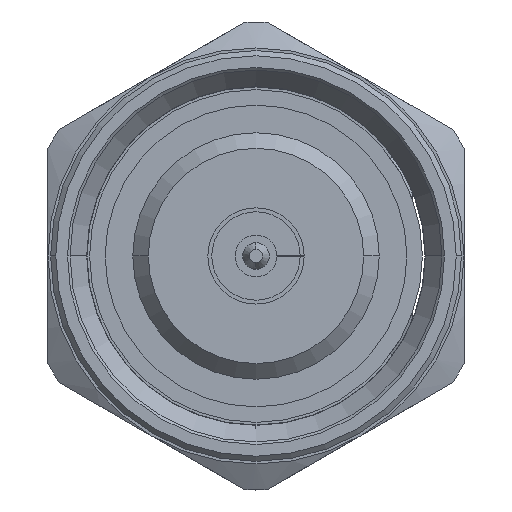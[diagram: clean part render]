
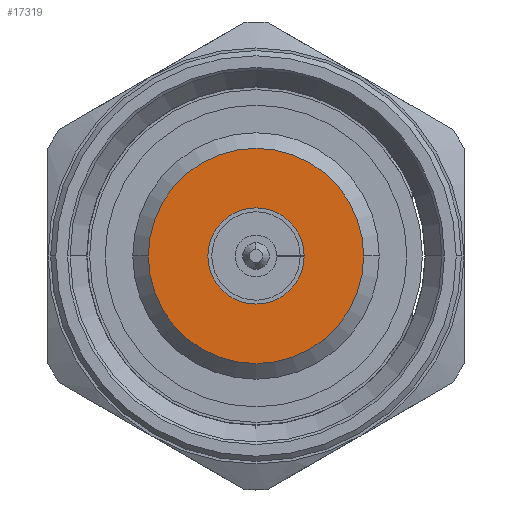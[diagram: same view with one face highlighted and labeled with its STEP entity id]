
A CAD part, left-side view. The second image highlights one B-rep face of the part: STEP entity #17319.
In plain terms, the highlighted planar face has unit normal (-1, 0, 0) as drawn and (0, 0, 1) by its records, which use the part's own axes.
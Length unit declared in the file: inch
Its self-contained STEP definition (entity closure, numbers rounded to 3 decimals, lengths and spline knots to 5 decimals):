
#649 = CARTESIAN_POINT ( 'NONE',  ( 0.0815, 0., 0.51693 ) ) ;
#1506 = EDGE_CURVE ( 'NONE', #31393, #21904, #18615, .T. ) ;
#2075 = EDGE_CURVE ( 'NONE', #21904, #31393, #32509, .T. ) ;
#2870 = DIRECTION ( 'NONE',  ( 0., 0., -1. ) ) ;
#3365 = DIRECTION ( 'NONE',  ( 0., 0., -1. ) ) ;
#3383 = VERTEX_POINT ( 'NONE', #11008 ) ;
#4039 = DIRECTION ( 'NONE',  ( 0., 0., -1. ) ) ;
#4273 = ORIENTED_EDGE ( 'NONE', *, *, #22717, .F. ) ;
#7033 = CARTESIAN_POINT ( 'NONE',  ( 0.03642, 0., 0.51693 ) ) ;
#8342 = FACE_BOUND ( 'NONE', #12535, .T. ) ;
#9455 = AXIS2_PLACEMENT_3D ( 'NONE', #29404, #13825, #32000 ) ;
#9874 = ORIENTED_EDGE ( 'NONE', *, *, #2075, .T. ) ;
#11008 = CARTESIAN_POINT ( 'NONE',  ( -0.0815, 0., 0.51693 ) ) ;
#11326 = CIRCLE ( 'NONE', #9455, 0.0815 ) ;
#11672 = ORIENTED_EDGE ( 'NONE', *, *, #1506, .T. ) ;
#12535 = EDGE_LOOP ( 'NONE', ( #11672, #9874 ) ) ;
#13521 = EDGE_CURVE ( 'NONE', #25742, #3383, #11326, .T. ) ;
#13825 = DIRECTION ( 'NONE',  ( 0., 0., -1. ) ) ;
#14627 = PLANE ( 'NONE',  #33476 ) ;
#15863 = EDGE_LOOP ( 'NONE', ( #4273, #21868 ) ) ;
#16306 = AXIS2_PLACEMENT_3D ( 'NONE', #18919, #3365, #21543 ) ;
#17229 = DIRECTION ( 'NONE',  ( 1., 0., 0. ) ) ;
#17319 = ADVANCED_FACE ( 'NONE', ( #8342, #22093 ), #14627, .T. ) ;
#17725 = CIRCLE ( 'NONE', #18954, 0.0815 ) ;
#18441 = CARTESIAN_POINT ( 'NONE',  ( 0., 0., 0.51693 ) ) ;
#18521 = CARTESIAN_POINT ( 'NONE',  ( -0.03642, 0., 0.51693 ) ) ;
#18615 = CIRCLE ( 'NONE', #16306, 0.03642 ) ;
#18919 = CARTESIAN_POINT ( 'NONE',  ( 0., 0., 0.51693 ) ) ;
#18954 = AXIS2_PLACEMENT_3D ( 'NONE', #19598, #4039, #22199 ) ;
#19598 = CARTESIAN_POINT ( 'NONE',  ( 0., 0., 0.51693 ) ) ;
#19600 = CARTESIAN_POINT ( 'NONE',  ( 0., -0.03642, 0.51693 ) ) ;
#21058 = DIRECTION ( 'NONE',  ( 1., 0., 0. ) ) ;
#21543 = DIRECTION ( 'NONE',  ( 1., 0., 0. ) ) ;
#21868 = ORIENTED_EDGE ( 'NONE', *, *, #13521, .F. ) ;
#21904 = VERTEX_POINT ( 'NONE', #18521 ) ;
#22093 = FACE_OUTER_BOUND ( 'NONE', #15863, .T. ) ;
#22199 = DIRECTION ( 'NONE',  ( -1., 0., 0. ) ) ;
#22717 = EDGE_CURVE ( 'NONE', #3383, #25742, #17725, .T. ) ;
#25439 = AXIS2_PLACEMENT_3D ( 'NONE', #18441, #2870, #21058 ) ;
#25742 = VERTEX_POINT ( 'NONE', #649 ) ;
#29404 = CARTESIAN_POINT ( 'NONE',  ( 0., 0., 0.51693 ) ) ;
#31393 = VERTEX_POINT ( 'NONE', #7033 ) ;
#32000 = DIRECTION ( 'NONE',  ( -1., 0., 0. ) ) ;
#32509 = CIRCLE ( 'NONE', #25439, 0.03642 ) ;
#32810 = DIRECTION ( 'NONE',  ( 0., 0., 1. ) ) ;
#33476 = AXIS2_PLACEMENT_3D ( 'NONE', #19600, #32810, #17229 ) ;
